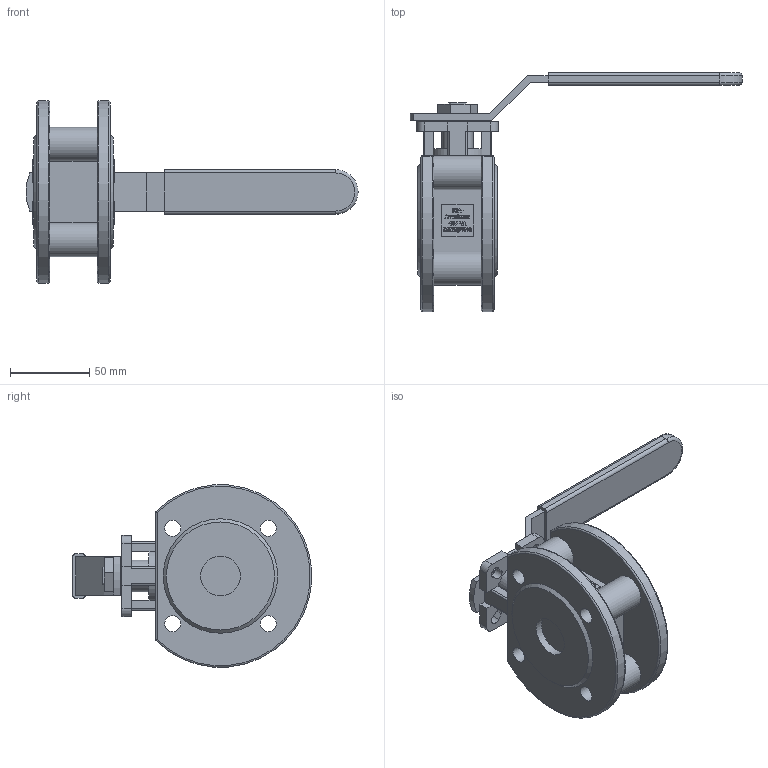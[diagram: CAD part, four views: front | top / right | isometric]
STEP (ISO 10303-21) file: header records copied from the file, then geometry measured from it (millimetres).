
FILE_DESCRIPTION((''),'2;1');
FILE_NAME('K:\Inventor\1 Artikel\12) Flanschen-Kugelhähne\12a) manuell\Econosto\437-VA, 7383\437-VA, DN25\437-VA, DN25, 3D\437-VA, DN25, PN40, HH, 3D.stp','2019-11-07T15:42:20',('claudia'),(''),'Autodesk Inventor 2013','Autodesk Inventor 2013','');
FILE_SCHEMA(('AUTOMOTIVE_DESIGN { 1 0 10303 214 1 1 1 1 }'));
Length unit declared in the file: millimetre
Products named in the file (1): Bauteil5
Bounding box: 208.9 x 150.38 x 114.6 mm (x, y, z)
Volume: 343290.9 mm3; surface area: 74268.1 mm2
Topology: 1 solids, 1 shells, 1239 faces, 3363 edges, 2230 vertices
Faces by surface type: plane 738, bspline 427, cylinder 58, sphere 8, torus 6, cone 2
Full cylindrical faces by diameter (mm): 10.106 x4, 20 x1, 25 x2, 33 x1
Entity records: 43296 total; most frequent: CARTESIAN_POINT 13785, ORIENTED_EDGE 6704, DIRECTION 4257, EDGE_CURVE 3352, VECTOR 2357, LINE 2357, VERTEX_POINT 2229, EDGE_LOOP 1377
